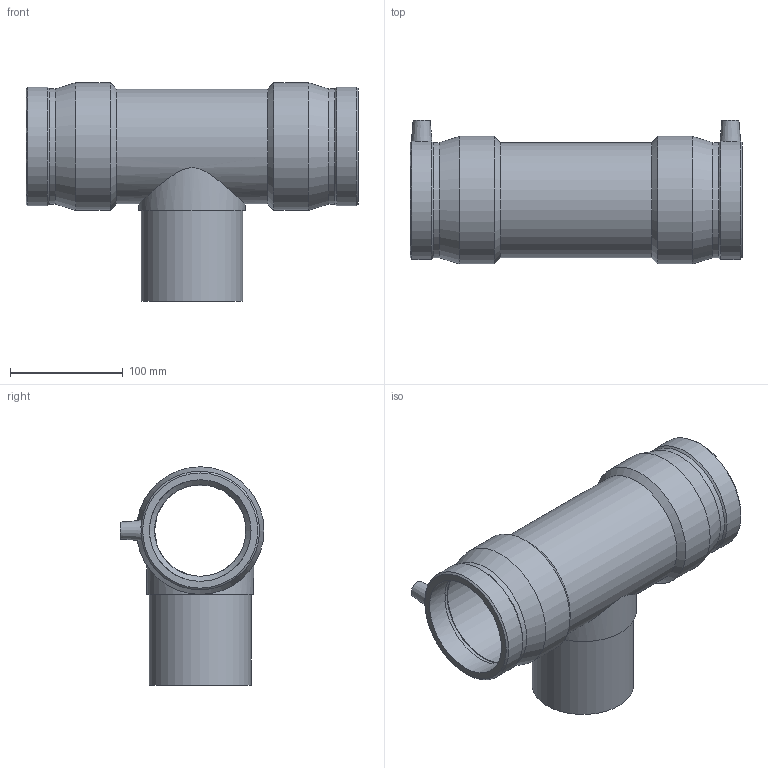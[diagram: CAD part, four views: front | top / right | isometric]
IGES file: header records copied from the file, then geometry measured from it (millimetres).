
Global section: file name: 490404090.ipt; native system: Autodesk Inventor 2015; preprocessor: unknown; author: KIM; date: 20190124.130144; units: millimetre
Bounding box: 294 x 127.5 x 193.5 mm (x, y, z)
Volume: 1069663.8 mm3; surface area: 230044.5 mm2
Topology: 1 solids, 1 shells, 47 faces, 107 edges, 70 vertices
Faces by surface type: plane 12, revolution 12, cone 12, cylinder 11
Full cylindrical faces by diameter (mm): 4 x2, 90 x1, 94.5 x1, 101.7 x1, 101.937 x2, 113 x2
